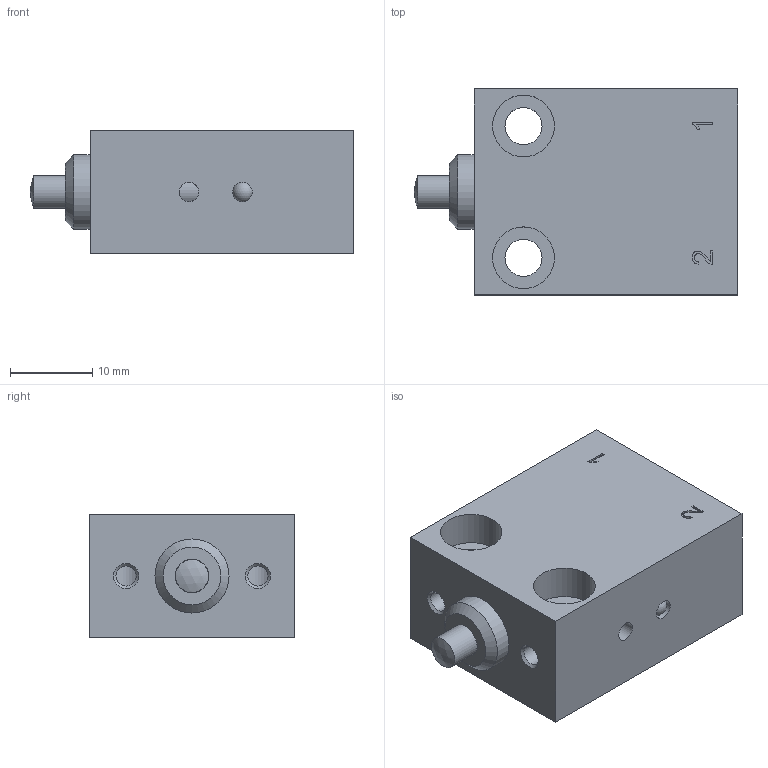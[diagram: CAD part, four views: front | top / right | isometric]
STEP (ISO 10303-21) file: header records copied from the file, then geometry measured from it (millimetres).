
FILE_DESCRIPTION(/* description */ ('Unknown','CAx-IF Rec.Pracs.---Representation and Presentation of Product Manufacturing Information (PMI)---4.0---2014-10-13','CAx-IF Rec.Pracs.---3D Tessellated Geometry---0.4---2014-09-14','2;1'),/* implementation_level */ '2;1');
FILE_NAME(/* name */ 'BV 311 202',/* time_stamp */ '2020-07-03T13:23:31+02:00',/* author */ ('Unknown'),/* organization */ ('Unknown'),/* preprocessor_version */ 'ST-DEVELOPER v16.7',/* originating_system */ 'DEX',/* authorisation */ $);
FILE_SCHEMA (('AP242_MANAGED_MODEL_BASED_3D_ENGINEERING_MIM_LF { 1 0 10303 442 20130219 1 4 }'));
Length unit declared in the file: millimetre
Products named in the file (2): BV 311 202
Assembly tree (1 placements, depth 2):
  BV 311 202
    BV 311 202
Bounding box: 39.25 x 25 x 15 mm (x, y, z)
Volume: 9802.3 mm3; surface area: 6294.4 mm2
Topology: 7 solids, 7 shells, 107 faces, 268 edges, 180 vertices
Faces by surface type: plane 44, cylinder 33, cone 19, bspline 8, sphere 3
Full cylindrical faces by diameter (mm): 1 x1, 2.375 x5, 2.459 x2, 2.5 x1, 2.8 x1, 3.93 x1, 4 x2, 4.05 x1, 4.134 x4, 4.5 x2, 5 x1, 5.4 x1, 6 x1, 7 x2, 7.5 x4, 8 x1, 8.06 x1, 8.08 x1, 9 x1
Entity records: 3666 total; most frequent: CARTESIAN_POINT 976, DIRECTION 418, ORIENTED_EDGE 350, FACE_BOUND 199, EDGE_LOOP 196, EDGE_CURVE 175, AXIS2_PLACEMENT_3D 172, VERTEX_POINT 146
